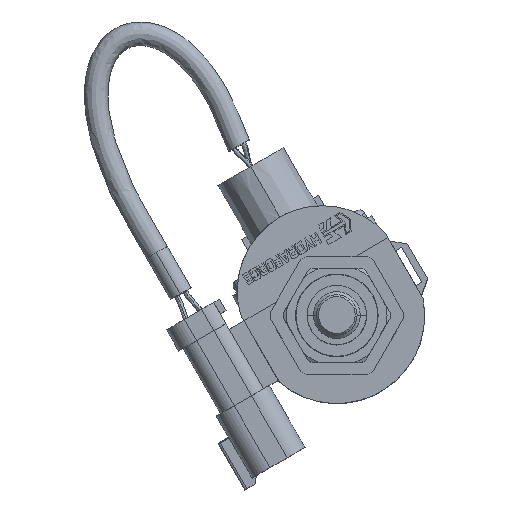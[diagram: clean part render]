
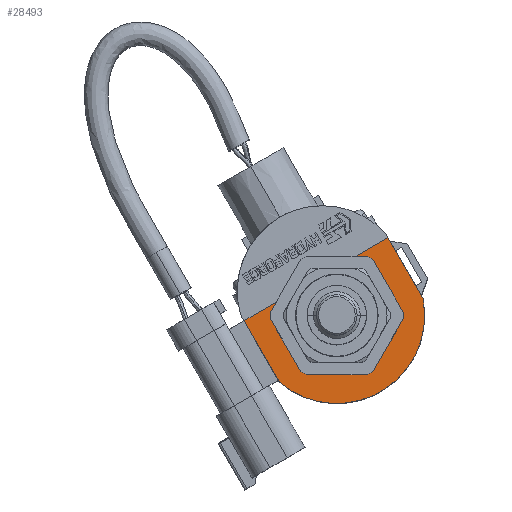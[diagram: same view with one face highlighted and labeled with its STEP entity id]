
A CAD part, top view. The second image highlights one B-rep face of the part: STEP entity #28493.
In plain terms, the highlighted planar face has unit normal (0, 0, 1).
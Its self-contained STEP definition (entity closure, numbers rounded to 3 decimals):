
#8807=CARTESIAN_POINT('',(0.,0.,24.384));
#8808=DIRECTION('',(0.,0.,1.));
#8809=DIRECTION('',(-0.803,0.596,0.));
#8810=AXIS2_PLACEMENT_3D('',#8807,#8808,#8809);
#8812=CARTESIAN_POINT('',(0.,0.,24.384));
#8813=DIRECTION('',(0.,0.,1.));
#8814=DIRECTION('',(-1.,0.,0.));
#8815=AXIS2_PLACEMENT_3D('',#8812,#8813,#8814);
#8817=CARTESIAN_POINT('',(0.,0.,24.384));
#8818=DIRECTION('',(0.,0.,1.));
#8819=DIRECTION('',(1.,0.,0.));
#8820=AXIS2_PLACEMENT_3D('',#8817,#8818,#8819);
#8822=DIRECTION('',(0.,1.,0.));
#8823=VECTOR('',#8822,2.921);
#8824=CARTESIAN_POINT('',(11.214,8.331,24.384));
#8825=LINE('',#8824,#8823);
#8826=DIRECTION('',(1.,0.,0.));
#8827=VECTOR('',#8826,11.062);
#8828=CARTESIAN_POINT('',(11.214,11.252,24.384));
#8829=LINE('',#8828,#8827);
#8830=DIRECTION('',(0.,-1.,0.));
#8831=VECTOR('',#8830,18.923);
#8832=CARTESIAN_POINT('',(22.276,11.252,24.384));
#8833=LINE('',#8832,#8831);
#8834=CARTESIAN_POINT('',(0.,0.,24.384));
#8835=DIRECTION('',(0.,0.,-1.));
#8836=DIRECTION('',(0.946,-0.326,0.));
#8837=AXIS2_PLACEMENT_3D('',#8834,#8835,#8836);
#8839=DIRECTION('',(0.,1.,0.));
#8840=VECTOR('',#8839,18.923);
#8841=CARTESIAN_POINT('',(-22.276,-7.671,24.384));
#8842=LINE('',#8841,#8840);
#8843=DIRECTION('',(1.,0.,0.));
#8844=VECTOR('',#8843,11.062);
#8845=CARTESIAN_POINT('',(-22.276,11.252,24.384));
#8846=LINE('',#8845,#8844);
#8847=DIRECTION('',(0.,-1.,0.));
#8848=VECTOR('',#8847,2.921);
#8849=CARTESIAN_POINT('',(-11.214,11.252,24.384));
#8850=LINE('',#8849,#8848);
#18036=CARTESIAN_POINT('',(-22.276,11.252,24.384));
#18037=VERTEX_POINT('',#18036);
#18038=CARTESIAN_POINT('',(-22.276,-7.671,24.384));
#18039=VERTEX_POINT('',#18038);
#18050=CARTESIAN_POINT('',(-11.214,8.331,24.384));
#18051=CARTESIAN_POINT('',(-13.97,0.,24.384));
#18052=VERTEX_POINT('',#18050);
#18053=VERTEX_POINT('',#18051);
#18054=CARTESIAN_POINT('',(13.97,0.,24.384));
#18055=VERTEX_POINT('',#18054);
#18056=CARTESIAN_POINT('',(11.214,8.331,24.384));
#18057=VERTEX_POINT('',#18056);
#18058=CARTESIAN_POINT('',(11.214,11.252,24.384));
#18059=VERTEX_POINT('',#18058);
#18060=CARTESIAN_POINT('',(22.276,11.252,24.384));
#18061=VERTEX_POINT('',#18060);
#18062=CARTESIAN_POINT('',(22.276,-7.671,24.384));
#18063=VERTEX_POINT('',#18062);
#18064=CARTESIAN_POINT('',(-11.214,11.252,24.384));
#18065=VERTEX_POINT('',#18064);
#28467=CARTESIAN_POINT('',(0.,11.252,24.384));
#28468=DIRECTION('',(0.,0.,1.));
#28469=DIRECTION('',(0.,1.,0.));
#28470=AXIS2_PLACEMENT_3D('',#28467,#28468,#28469);
#28471=PLANE('',#28470);
#28473=ORIENTED_EDGE('',*,*,#28472,.T.);
#28475=ORIENTED_EDGE('',*,*,#28474,.T.);
#28477=ORIENTED_EDGE('',*,*,#28476,.T.);
#28479=ORIENTED_EDGE('',*,*,#28478,.T.);
#28481=ORIENTED_EDGE('',*,*,#28480,.T.);
#28483=ORIENTED_EDGE('',*,*,#28482,.T.);
#28485=ORIENTED_EDGE('',*,*,#28484,.T.);
#28486=ORIENTED_EDGE('',*,*,#28448,.T.);
#28488=ORIENTED_EDGE('',*,*,#28487,.T.);
#28490=ORIENTED_EDGE('',*,*,#28489,.T.);
#28491=EDGE_LOOP('',(#28473,#28475,#28477,#28479,#28481,#28483,#28485,#28486,
#28488,#28490));
#28492=FACE_OUTER_BOUND('',#28491,.F.);
#28493=ADVANCED_FACE('',(#28492),#28471,.T.);
#8811=CIRCLE('',#8810,13.97);
#8816=CIRCLE('',#8815,13.97);
#8821=CIRCLE('',#8820,13.97);
#8838=CIRCLE('',#8837,23.56);
#28448=EDGE_CURVE('',#18039,#18037,#8842,.T.);
#28472=EDGE_CURVE('',#18052,#18053,#8811,.T.);
#28474=EDGE_CURVE('',#18053,#18055,#8816,.T.);
#28476=EDGE_CURVE('',#18055,#18057,#8821,.T.);
#28478=EDGE_CURVE('',#18057,#18059,#8825,.T.);
#28480=EDGE_CURVE('',#18059,#18061,#8829,.T.);
#28482=EDGE_CURVE('',#18061,#18063,#8833,.T.);
#28484=EDGE_CURVE('',#18063,#18039,#8838,.T.);
#28487=EDGE_CURVE('',#18037,#18065,#8846,.T.);
#28489=EDGE_CURVE('',#18065,#18052,#8850,.T.);
